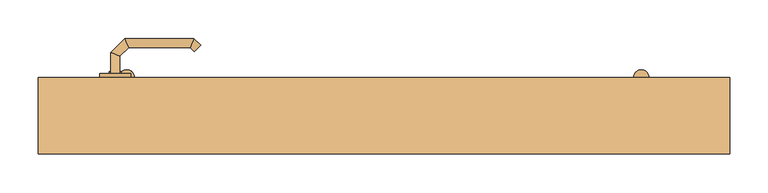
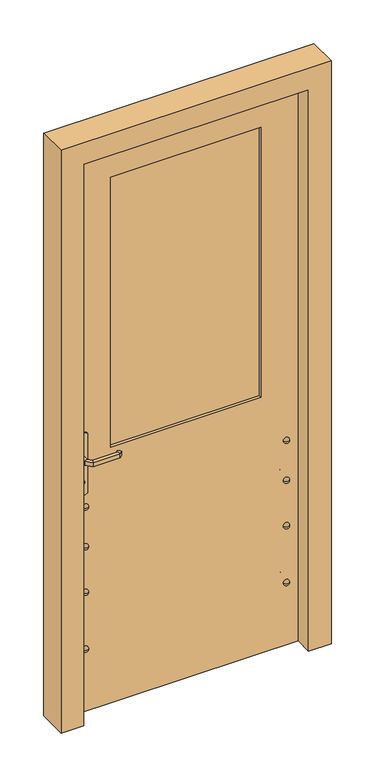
"""IFC4 building model written with IfcOpenShell, lengths in millimetres: door geometry, C&L Quercy mur simple : 80*200."""

from ifc_helpers import new_model, si_unit, point, frame, frame_2d, origin, place, context, project, spatial, polyline, circle_curve, ellipse_curve, trimmed, segment, composite_curve, outline, extrude, faceted_brep, source, transform, mapped, element, save
from ifc_brep_helpers import plane_surface, cylinder_surface, revolved_surface, advanced_brep


def door_49cb9b66(model_context):
    return source(origin(), model_context, "Body", "SolidModel", [
        extrude(outline(composite_curve([segment(polyline([(808.0464422, -355.0), (795.0, -355.0)]), True, "CONTINUOUS"), segment(trimmed(circle_curve(frame_2d((795.0, -350.0)), 5.0), [point((795.0, -355.0))], [point((795.0, -345.0))], False, "CARTESIAN"), True, "CONTINUOUS"), segment(polyline([(795.0, -345.0), (808.0464422, -345.0)]), True, "CONTINUOUS"), segment(trimmed(circle_curve(frame_2d((814.2914402, -350.0)), 8.0), [point((808.0464422, -345.0))], [point((808.0464422, -355.0))], False, "CARTESIAN"), True, "CONTINUOUS")], self_intersect=False)), frame((0.0, 85.0, 0.0), z_axis=(0.0, 1.0, 0.0), x_axis=(0.0, 0.0, 1.0)), (0.0, 0.0, 1.0), 5.0),
        extrude(outline(composite_curve([segment(polyline([(808.0464422, -355.0), (795.0, -355.0)]), True, "CONTINUOUS"), segment(trimmed(circle_curve(frame_2d((795.0, -350.0)), 5.0), [point((795.0, -355.0))], [point((795.0, -345.0))], False, "CARTESIAN"), True, "CONTINUOUS"), segment(polyline([(795.0, -345.0), (808.0464422, -345.0)]), True, "CONTINUOUS"), segment(trimmed(circle_curve(frame_2d((814.2914402, -350.0)), 8.0), [point((808.0464422, -345.0))], [point((808.0464422, -355.0))], False, "CARTESIAN"), True, "CONTINUOUS")], self_intersect=False)), frame((0.0, 140.0, 0.0), z_axis=(0.0, 1.0, 0.0), x_axis=(0.0, 0.0, 1.0)), (0.0, 0.0, 1.0), 3.0),
        advanced_brep(
        [(-344.0, 90.0, 893.0), (-356.0, 90.0, 893.0), (-356.0, 90.0, 907.0), (-344.0, 90.0, 907.0), (-344.0, 67.5147955, 907.0), (-344.0, 67.5147955, 893.0), (-356.0, 62.5442327, 907.0), (-356.0, 62.5442327, 893.0), (-332.5147186, 56.0295141, 907.0), (-332.5147186, 56.0295141, 893.0), (-337.4852814, 44.0295141, 907.0), (-337.4852814, 44.0295141, 893.0), (-252.4394977, 56.0295141, 907.0), (-252.4394977, 56.0295141, 893.0), (-247.468935, 44.0295141, 907.0), (-247.468935, 44.0295141, 893.0), (-247.1257892, 61.3432226, 893.0), (-247.1257892, 61.3432226, 907.0), (-238.6405078, 52.8579412, 907.0), (-238.6405078, 52.8579412, 893.0)],
        [
            (0, 1, circle_curve(frame((-350.0, 90.0, 913.0457722), z_axis=(0.0, 1.0, 0.0), x_axis=(-1.0, 0.0, 0.0)), 20.9244589)),
            (1, 2),
            (2, 3, circle_curve(frame((-350.0, 90.0, 886.9542278), z_axis=(0.0, 1.0, 0.0), x_axis=(-1.0, 0.0, 0.0)), 20.9244589)),
            (3, 0),
            (3, 4),
            (4, 5),
            (5, 0),
            (2, 6),
            (6, 4, ellipse_curve(frame((-350.0, 65.0295141, 886.9542278), z_axis=(-0.3826834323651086, 0.923879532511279, 0.0), x_axis=(0.9238795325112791, 0.3826834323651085, 0.0)), 22.6484711, 20.9244589)),
            (1, 7),
            (7, 6),
            (5, 7, ellipse_curve(frame((-350.0, 65.0295141, 913.0457722), z_axis=(-0.3826834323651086, 0.923879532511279, 0.0), x_axis=(0.9238795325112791, 0.3826834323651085, 0.0)), 22.6484711, 20.9244589)),
            (4, 8),
            (8, 9),
            (9, 5),
            (6, 10),
            (10, 8, ellipse_curve(frame((-335.0, 50.0295141, 886.9542278), z_axis=(-0.9238795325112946, 0.3826834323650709, 0.0), x_axis=(0.3826834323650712, 0.9238795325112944, 0.0)), 22.6484711, 20.9244589)),
            (7, 11),
            (11, 10),
            (9, 11, ellipse_curve(frame((-335.0, 50.0295141, 913.0457722), z_axis=(-0.9238795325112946, 0.3826834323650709, 0.0), x_axis=(0.3826834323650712, 0.9238795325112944, 0.0)), 22.6484711, 20.9244589)),
            (8, 12),
            (12, 13),
            (13, 9),
            (10, 14),
            (14, 12, ellipse_curve(frame((-249.9542163, 50.0295141, 886.9542278), z_axis=(-0.9238795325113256, -0.3826834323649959, 0.0), x_axis=(-0.38268343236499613, 0.9238795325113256, 0.0)), 22.6484711, 20.9244589)),
            (11, 15),
            (15, 14),
            (13, 15, ellipse_curve(frame((-249.9542163, 50.0295141, 913.0457722), z_axis=(-0.9238795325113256, -0.3826834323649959, 0.0), x_axis=(-0.38268343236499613, 0.9238795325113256, 0.0)), 22.6484711, 20.9244589)),
            (16, 17),
            (17, 18, circle_curve(frame((-242.8831485, 57.1005819, 886.9542278), z_axis=(0.7071067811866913, 0.7071067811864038, 0.0), x_axis=(0.7071067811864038, -0.7071067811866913, 0.0)), 20.9244589)),
            (18, 19),
            (19, 16, circle_curve(frame((-242.8831485, 57.1005819, 913.0457722), z_axis=(0.7071067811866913, 0.7071067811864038, 0.0), x_axis=(0.7071067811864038, -0.7071067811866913, 0.0)), 20.9244589)),
            (12, 17),
            (16, 13),
            (14, 18),
            (15, 19),
        ],
        [
            plane_surface(frame((-359.2195445, 90.0, 900.0), z_axis=(0.0, 1.0, 0.0), x_axis=(0.0, 0.0, 1.0))),
            plane_surface(frame((-344.0, 90.0, 893.0), z_axis=(1.0, 0.0, 0.0), x_axis=(0.0, -1.0, 0.0))),
            cylinder_surface(frame((-350.0, 90.0, 886.9542278), z_axis=(0.0, 1.0, 0.0), x_axis=(-1.0, 0.0, 0.0)), 20.9244589),
            plane_surface(frame((-356.0, 90.0, 907.0), z_axis=(-1.0, 0.0, 0.0), x_axis=(0.0, -1.0, 0.0))),
            cylinder_surface(frame((-350.0, 90.0, 913.0457722), z_axis=(0.0, 1.0, 0.0), x_axis=(-1.0, 0.0, 0.0)), 20.9244589),
            plane_surface(frame((-344.0, 67.5147955, 893.0), z_axis=(0.7071067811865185, 0.7071067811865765, 0.0), x_axis=(0.7071067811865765, -0.7071067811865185, 0.0))),
            cylinder_surface(frame((-350.0, 65.0295141, 886.9542278), z_axis=(-0.7071067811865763, 0.7071067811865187, 0.0), x_axis=(-0.7071067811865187, -0.7071067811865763, 0.0)), 20.9244589),
            plane_surface(frame((-356.0, 62.5442327, 907.0), z_axis=(-0.7071067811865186, -0.7071067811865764, 0.0), x_axis=(0.7071067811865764, -0.7071067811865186, 0.0))),
            cylinder_surface(frame((-350.0, 65.0295141, 913.0457722), z_axis=(-0.7071067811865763, 0.7071067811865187, 0.0), x_axis=(-0.7071067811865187, -0.7071067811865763, 0.0)), 20.9244589),
            plane_surface(frame((-332.5147186, 56.0295141, 893.0), z_axis=(0.0, 1.0, 0.0), x_axis=(1.0, 0.0, 0.0))),
            cylinder_surface(frame((-335.0, 50.0295141, 886.9542278), z_axis=(-1.0, 0.0, 0.0), x_axis=(0.0, -1.0, 0.0)), 20.9244589),
            plane_surface(frame((-337.4852814, 44.0295141, 907.0), z_axis=(0.0, -1.0, 0.0), x_axis=(1.0, 0.0, 0.0))),
            cylinder_surface(frame((-335.0, 50.0295141, 913.0457722), z_axis=(-1.0, 0.0, 0.0), x_axis=(0.0, -1.0, 0.0)), 20.9244589),
            plane_surface(frame((-242.8831485, 57.1005819, 890.7804555), z_axis=(0.7071067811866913, 0.7071067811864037, 0.0), x_axis=(0.7071067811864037, -0.7071067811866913, 0.0))),
            plane_surface(frame((-252.4394977, 56.0295141, 893.0), z_axis=(-0.7071067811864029, 0.7071067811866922, 0.0), x_axis=(0.7071067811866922, 0.7071067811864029, 0.0))),
            cylinder_surface(frame((-249.9542163, 50.0295141, 886.9542278), z_axis=(-0.7071067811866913, -0.7071067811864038, 0.0), x_axis=(0.7071067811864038, -0.7071067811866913, 0.0)), 20.9244589),
            plane_surface(frame((-247.468935, 44.0295141, 907.0), z_axis=(0.7071067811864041, -0.7071067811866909, 0.0), x_axis=(0.7071067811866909, 0.7071067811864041, 0.0))),
            cylinder_surface(frame((-249.9542163, 50.0295141, 913.0457722), z_axis=(-0.7071067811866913, -0.7071067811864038, 0.0), x_axis=(0.7071067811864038, -0.7071067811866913, 0.0)), 20.9244589),
        ],
        [
            (0, [[1, 2, 3, 4]]),
            (1, [[5, 6, 7, -4]]),
            (2, [[8, 9, -5, -3]]),
            (3, [[10, 11, -8, -2]]),
            (4, [[-7, 12, -10, -1]]),
            (5, [[13, 14, 15, -6]]),
            (6, [[16, 17, -13, -9]]),
            (7, [[18, 19, -16, -11]]),
            (8, [[-15, 20, -18, -12]]),
            (9, [[21, 22, 23, -14]]),
            (10, [[24, 25, -21, -17]]),
            (11, [[26, 27, -24, -19]]),
            (12, [[-23, 28, -26, -20]]),
            (13, [[29, 30, 31, 32]]),
            (14, [[33, -29, 34, -22]]),
            (15, [[35, -30, -33, -25]]),
            (16, [[36, -31, -35, -27]]),
            (17, [[-34, -32, -36, -28]]),
        ],
    ),
        advanced_brep(
        [(-356.0, 140.0, 907.0), (-356.0, 140.0, 893.0), (-344.0, 140.0, 893.0), (-344.0, 140.0, 907.0), (-344.0, 162.680388, 907.0), (-356.0, 167.6509507, 907.0), (-344.0, 162.680388, 893.0), (-356.0, 167.6509507, 893.0), (-332.6522273, 174.0281607, 907.0), (-337.62279, 186.0281607, 907.0), (-332.6522273, 174.0281607, 893.0), (-337.62279, 186.0281607, 893.0), (-252.4666408, 174.0281607, 907.0), (-247.496078, 186.0281607, 907.0), (-252.4666408, 174.0281607, 893.0), (-247.496078, 186.0281607, 893.0), (-238.6676509, 177.1997336, 907.0), (-247.1529323, 168.7144522, 907.0), (-247.1529323, 168.7144522, 893.0), (-238.6676509, 177.1997336, 893.0)],
        [
            (0, 1),
            (1, 2, circle_curve(frame((-350.0, 140.0, 913.0457722), z_axis=(0.0, -1.0, 0.0), x_axis=(1.0, 0.0, 0.0)), 20.9244589)),
            (2, 3),
            (3, 0, circle_curve(frame((-350.0, 140.0, 886.9542278), z_axis=(0.0, -1.0, 0.0), x_axis=(1.0, 0.0, 0.0)), 20.9244589)),
            (3, 4),
            (4, 5, ellipse_curve(frame((-350.0, 165.1656693, 886.9542278), z_axis=(-0.3826834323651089, -0.9238795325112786, 0.0), x_axis=(0.9238795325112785, -0.3826834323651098, 0.0)), 22.6484711, 20.9244589)),
            (5, 0),
            (2, 6),
            (6, 4),
            (1, 7),
            (7, 6, ellipse_curve(frame((-350.0, 165.1656693, 913.0457722), z_axis=(-0.3826834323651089, -0.9238795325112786, 0.0), x_axis=(0.9238795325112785, -0.3826834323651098, 0.0)), 22.6484711, 20.9244589)),
            (5, 7),
            (4, 8),
            (8, 9, ellipse_curve(frame((-335.1375086, 180.0281607, 886.9542278), z_axis=(-0.9238795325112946, -0.3826834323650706, 0.0), x_axis=(0.3826834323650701, -0.9238795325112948, 0.0)), 22.6484711, 20.9244589)),
            (9, 5),
            (6, 10),
            (10, 8),
            (7, 11),
            (11, 10, ellipse_curve(frame((-335.1375086, 180.0281607, 913.0457722), z_axis=(-0.9238795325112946, -0.3826834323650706, 0.0), x_axis=(0.3826834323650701, -0.9238795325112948, 0.0)), 22.6484711, 20.9244589)),
            (9, 11),
            (8, 12),
            (12, 13, ellipse_curve(frame((-249.9813594, 180.0281607, 886.9542278), z_axis=(-0.9238795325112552, 0.3826834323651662, 0.0), x_axis=(-0.3826834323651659, -0.9238795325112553, 0.0)), 22.6484711, 20.9244589)),
            (13, 9),
            (10, 14),
            (14, 12),
            (11, 15),
            (15, 14, ellipse_curve(frame((-249.9813594, 180.0281607, 913.0457722), z_axis=(-0.9238795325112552, 0.3826834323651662, 0.0), x_axis=(-0.3826834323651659, -0.9238795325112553, 0.0)), 22.6484711, 20.9244589)),
            (13, 15),
            (16, 17, circle_curve(frame((-242.9102916, 172.9570929, 886.9542278), z_axis=(0.7071067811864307, -0.7071067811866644, 0.0), x_axis=(-0.7071067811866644, -0.7071067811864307, 0.0)), 20.9244589)),
            (17, 18),
            (18, 19, circle_curve(frame((-242.9102916, 172.9570929, 913.0457722), z_axis=(0.7071067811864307, -0.7071067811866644, 0.0), x_axis=(-0.7071067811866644, -0.7071067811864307, 0.0)), 20.9244589)),
            (19, 16),
            (12, 17),
            (16, 13),
            (14, 18),
            (15, 19),
        ],
        [
            plane_surface(frame((-359.2195445, 140.0, 900.0), z_axis=(0.0, -1.0, 0.0), x_axis=(0.0, 0.0, -1.0))),
            cylinder_surface(frame((-350.0, 140.0, 886.9542278), z_axis=(0.0, -1.0, 0.0), x_axis=(1.0, 0.0, 0.0)), 20.9244589),
            plane_surface(frame((-344.0, 140.0, 907.0), z_axis=(1.0, 0.0, 0.0), x_axis=(0.0, 1.0, 0.0))),
            cylinder_surface(frame((-350.0, 140.0, 913.0457722), z_axis=(0.0, -1.0, 0.0), x_axis=(1.0, 0.0, 0.0)), 20.9244589),
            plane_surface(frame((-356.0, 140.0, 893.0), z_axis=(-1.0, 0.0, 0.0), x_axis=(0.0, 1.0, 0.0))),
            cylinder_surface(frame((-350.0, 165.1656693, 886.9542278), z_axis=(-0.7071067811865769, -0.7071067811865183, 0.0), x_axis=(0.7071067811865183, -0.7071067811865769, 0.0)), 20.9244589),
            plane_surface(frame((-344.0, 162.680388, 907.0), z_axis=(0.707106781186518, -0.7071067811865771, 0.0), x_axis=(0.7071067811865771, 0.707106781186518, 0.0))),
            cylinder_surface(frame((-350.0, 165.1656693, 913.0457722), z_axis=(-0.7071067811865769, -0.7071067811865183, 0.0), x_axis=(0.7071067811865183, -0.7071067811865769, 0.0)), 20.9244589),
            plane_surface(frame((-356.0, 167.6509507, 893.0), z_axis=(-0.7071067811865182, 0.7071067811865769, 0.0), x_axis=(0.7071067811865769, 0.7071067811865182, 0.0))),
            cylinder_surface(frame((-335.1375086, 180.0281607, 886.9542278), z_axis=(-1.0, 0.0, 0.0), x_axis=(0.0, -1.0, 0.0)), 20.9244589),
            plane_surface(frame((-332.6522273, 174.0281607, 907.0), z_axis=(0.0, -1.0, 0.0), x_axis=(1.0, 0.0, 0.0))),
            cylinder_surface(frame((-335.1375086, 180.0281607, 913.0457722), z_axis=(-1.0, 0.0, 0.0), x_axis=(0.0, -1.0, 0.0)), 20.9244589),
            plane_surface(frame((-337.62279, 186.0281607, 893.0), z_axis=(0.0, 1.0, 0.0), x_axis=(1.0, 0.0, 0.0))),
            plane_surface(frame((-242.9102916, 172.9570929, 909.2195445), z_axis=(0.7071067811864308, -0.7071067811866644, 0.0), x_axis=(0.7071067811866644, 0.7071067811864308, 0.0))),
            cylinder_surface(frame((-249.9813594, 180.0281607, 886.9542278), z_axis=(-0.7071067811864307, 0.7071067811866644, 0.0), x_axis=(-0.7071067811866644, -0.7071067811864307, 0.0)), 20.9244589),
            plane_surface(frame((-252.4666408, 174.0281607, 907.0), z_axis=(-0.7071067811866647, -0.7071067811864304, 0.0), x_axis=(0.7071067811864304, -0.7071067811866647, 0.0))),
            cylinder_surface(frame((-249.9813594, 180.0281607, 913.0457722), z_axis=(-0.7071067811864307, 0.7071067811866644, 0.0), x_axis=(-0.7071067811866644, -0.7071067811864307, 0.0)), 20.9244589),
            plane_surface(frame((-247.496078, 186.0281607, 893.0), z_axis=(0.7071067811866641, 0.707106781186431, 0.0), x_axis=(0.707106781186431, -0.7071067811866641, 0.0))),
        ],
        [
            (0, [[1, 2, 3, 4]]),
            (1, [[5, 6, 7, -4]]),
            (2, [[8, 9, -5, -3]]),
            (3, [[10, 11, -8, -2]]),
            (4, [[-7, 12, -10, -1]]),
            (5, [[13, 14, 15, -6]]),
            (6, [[16, 17, -13, -9]]),
            (7, [[18, 19, -16, -11]]),
            (8, [[-15, 20, -18, -12]]),
            (9, [[21, 22, 23, -14]]),
            (10, [[24, 25, -21, -17]]),
            (11, [[26, 27, -24, -19]]),
            (12, [[-23, 28, -26, -20]]),
            (13, [[29, 30, 31, 32]]),
            (14, [[33, -29, 34, -22]]),
            (15, [[35, -30, -33, -25]]),
            (16, [[36, -31, -35, -27]]),
            (17, [[-34, -32, -36, -28]]),
        ],
    ),
        extrude(outline(composite_curve([segment(trimmed(circle_curve(frame_2d((945.3589838, -350.0)), 40.0), [point((980.0, -330.0))], [point((980.0, -370.0))], False, "CARTESIAN"), True, "CONTINUOUS"), segment(polyline([(980.0, -370.0), (770.0, -370.0)]), True, "CONTINUOUS"), segment(trimmed(circle_curve(frame_2d((804.6410162, -350.0)), 40.0), [point((770.0, -370.0))], [point((770.0, -330.0))], False, "CARTESIAN"), True, "CONTINUOUS"), segment(polyline([(770.0, -330.0), (980.0, -330.0)]), True, "CONTINUOUS")], self_intersect=False)), frame((0.0, 90.0, 0.0), z_axis=(0.0, 1.0, 0.0), x_axis=(0.0, 0.0, 1.0)), (0.0, 0.0, 1.0), 5.0),
        extrude(outline(composite_curve([segment(trimmed(circle_curve(frame_2d((804.6410162, -350.0)), 40.0), [point((770.0, -370.0))], [point((770.0, -330.0))], False, "CARTESIAN"), True, "CONTINUOUS"), segment(polyline([(770.0, -330.0), (980.0, -330.0)]), True, "CONTINUOUS"), segment(trimmed(circle_curve(frame_2d((945.3589838, -350.0)), 40.0), [point((980.0, -330.0))], [point((980.0, -370.0))], False, "CARTESIAN"), True, "CONTINUOUS"), segment(polyline([(980.0, -370.0), (770.0, -370.0)]), True, "CONTINUOUS")], self_intersect=False)), frame((0.0, 135.0, 0.0), z_axis=(0.0, 1.0, 0.0), x_axis=(0.0, 0.0, 1.0)), (0.0, 0.0, 1.0), 5.0),
        faceted_brep([(-450.0, 35.0, 0.0), (-450.0, 135.0, 0.0), (-400.0, 135.0, 0.0), (-400.0, 95.0, 0.0), (-375.0, 95.0, 0.0), (-375.0, 35.0, 0.0), (-375.0, 35.0, 1975.0), (375.0, 35.0, 1975.0), (375.0, 35.0, 0.0), (450.0, 35.0, 0.0), (450.0, 35.0, 2050.0), (-450.0, 35.0, 2050.0), (-375.0, 95.0, 1975.0), (-400.0, 95.0, 2000.0), (400.0, 95.0, 2000.0), (400.0, 95.0, 0.0), (375.0, 95.0, 0.0), (375.0, 95.0, 1975.0), (-400.0, 135.0, 2000.0), (-450.0, 135.0, 2050.0), (450.0, 135.0, 2050.0), (450.0, 135.0, 0.0), (400.0, 135.0, 0.0), (400.0, 135.0, 2000.0)], [[[0, 1, 2, 3, 4, 5]], [[5, 6, 7, 8, 9, 10, 11, 0]], [[4, 12, 6, 5]], [[3, 13, 14, 15, 16, 17, 12, 4]], [[2, 18, 13, 3]], [[1, 19, 20, 21, 22, 23, 18, 2]], [[0, 11, 19, 1]], [[6, 12, 17, 7]], [[13, 18, 23, 14]], [[10, 20, 19, 11]], [[8, 16, 15, 22, 21, 9]], [[7, 17, 16, 8]], [[14, 23, 22, 15]], [[9, 21, 20, 10]]]),
        advanced_brep(
        [(-335.0, 85.0, 720.0), (-345.0, 95.0, 720.0), (-325.0, 95.0, 720.0), (-335.0, 95.0, 720.0)],
        [
            (0, 1, circle_curve(frame((-335.0, 95.0, 720.0), z_axis=(0.0, 0.0, -1.0), x_axis=(0.0, 1.0, 0.0)), 10.0)),
            (1, 2, circle_curve(frame((-335.0, 95.0, 720.0), z_axis=(0.0, -1.0, 0.0), x_axis=(1.0, 0.0, 0.0)), 10.0)),
            (2, 0, circle_curve(frame((-335.0, 95.0, 720.0), z_axis=(0.0, 0.0, -1.0), x_axis=(0.0, 1.0, 0.0)), 10.0)),
            (2, 1, circle_curve(frame((-335.0, 95.0, 720.0), z_axis=(0.0, -1.0, 0.0), x_axis=(1.0, 0.0, 0.0)), 10.0)),
            (1, 3),
            (3, 2),
        ],
        [
            revolved_surface(trimmed(ellipse_curve(frame((-335.0, 95.0, 720.0), z_axis=(0.0, 0.0, -1.0), x_axis=(0.0, 1.0, 0.0)), 10.0, 10.0), [point((-325.0, 95.0, 720.0))], [point((-335.0, 85.0, 720.0))], True, "CARTESIAN"), (-335.0, -513.130768, 720.0), (0.0, -1.0, 0.0)),
            plane_surface(frame((-335.0, 95.0, 720.0), z_axis=(0.0, 1.0, 0.0), x_axis=(1.0, 0.0, 0.0))),
        ],
        [
            (0, [[1, 2, 3]]),
            (0, [[-3, 4, -1]]),
            (1, [[5, 6, -2]]),
            (1, [[-6, -5, -4]]),
        ],
    ),
        advanced_brep(
        [(335.0, 85.0, 720.0), (325.0, 95.0, 720.0), (345.0, 95.0, 720.0), (335.0, 95.0, 720.0)],
        [
            (0, 1, circle_curve(frame((335.0, 95.0, 720.0), z_axis=(0.0, 0.0, -1.0), x_axis=(0.0, 1.0, 0.0)), 10.0)),
            (1, 2, circle_curve(frame((335.0, 95.0, 720.0), z_axis=(0.0, -1.0, 0.0), x_axis=(1.0, 0.0, 0.0)), 10.0)),
            (2, 0, circle_curve(frame((335.0, 95.0, 720.0), z_axis=(0.0, 0.0, -1.0), x_axis=(0.0, 1.0, 0.0)), 10.0)),
            (2, 1, circle_curve(frame((335.0, 95.0, 720.0), z_axis=(0.0, -1.0, 0.0), x_axis=(1.0, 0.0, 0.0)), 10.0)),
            (1, 3),
            (3, 2),
        ],
        [
            revolved_surface(trimmed(ellipse_curve(frame((335.0, 95.0, 720.0), z_axis=(0.0, 0.0, -1.0), x_axis=(0.0, 1.0, 0.0)), 10.0, 10.0), [point((345.0, 95.0, 720.0))], [point((335.0, 85.0, 720.0))], True, "CARTESIAN"), (335.0, -513.130768, 720.0), (0.0, -1.0, 0.0)),
            plane_surface(frame((335.0, 95.0, 720.0), z_axis=(0.0, 1.0, 0.0), x_axis=(1.0, 0.0, 0.0))),
        ],
        [
            (0, [[1, 2, 3]]),
            (0, [[-3, 4, -1]]),
            (1, [[5, 6, -2]]),
            (1, [[-6, -5, -4]]),
        ],
    ),
        advanced_brep(
        [(335.0, 85.0, 580.0), (325.0, 95.0, 580.0), (345.0, 95.0, 580.0), (335.0, 95.0, 580.0)],
        [
            (0, 1, circle_curve(frame((335.0, 95.0, 580.0), z_axis=(0.0, 0.0, -1.0), x_axis=(0.0, 1.0, 0.0)), 10.0)),
            (1, 2, circle_curve(frame((335.0, 95.0, 580.0), z_axis=(0.0, -1.0, 0.0), x_axis=(1.0, 0.0, 0.0)), 10.0)),
            (2, 0, circle_curve(frame((335.0, 95.0, 580.0), z_axis=(0.0, 0.0, -1.0), x_axis=(0.0, 1.0, 0.0)), 10.0)),
            (2, 1, circle_curve(frame((335.0, 95.0, 580.0), z_axis=(0.0, -1.0, 0.0), x_axis=(1.0, 0.0, 0.0)), 10.0)),
            (1, 3),
            (3, 2),
        ],
        [
            revolved_surface(trimmed(ellipse_curve(frame((335.0, 95.0, 580.0), z_axis=(0.0, 0.0, -1.0), x_axis=(0.0, 1.0, 0.0)), 10.0, 10.0), [point((345.0, 95.0, 580.0))], [point((335.0, 85.0, 580.0))], True, "CARTESIAN"), (335.0, -513.130768, 580.0), (0.0, -1.0, 0.0)),
            plane_surface(frame((335.0, 95.0, 580.0), z_axis=(0.0, 1.0, 0.0), x_axis=(1.0, 0.0, 0.0))),
        ],
        [
            (0, [[1, 2, 3]]),
            (0, [[-3, 4, -1]]),
            (1, [[5, 6, -2]]),
            (1, [[-6, -5, -4]]),
        ],
    ),
        advanced_brep(
        [(-335.0, 85.0, 580.0), (-345.0, 95.0, 580.0), (-325.0, 95.0, 580.0), (-335.0, 95.0, 580.0)],
        [
            (0, 1, circle_curve(frame((-335.0, 95.0, 580.0), z_axis=(0.0, 0.0, -1.0), x_axis=(0.0, 1.0, 0.0)), 10.0)),
            (1, 2, circle_curve(frame((-335.0, 95.0, 580.0), z_axis=(0.0, -1.0, 0.0), x_axis=(1.0, 0.0, 0.0)), 10.0)),
            (2, 0, circle_curve(frame((-335.0, 95.0, 580.0), z_axis=(0.0, 0.0, -1.0), x_axis=(0.0, 1.0, 0.0)), 10.0)),
            (2, 1, circle_curve(frame((-335.0, 95.0, 580.0), z_axis=(0.0, -1.0, 0.0), x_axis=(1.0, 0.0, 0.0)), 10.0)),
            (1, 3),
            (3, 2),
        ],
        [
            revolved_surface(trimmed(ellipse_curve(frame((-335.0, 95.0, 580.0), z_axis=(0.0, 0.0, -1.0), x_axis=(0.0, 1.0, 0.0)), 10.0, 10.0), [point((-325.0, 95.0, 580.0))], [point((-335.0, 85.0, 580.0))], True, "CARTESIAN"), (-335.0, -513.130768, 580.0), (0.0, -1.0, 0.0)),
            plane_surface(frame((-335.0, 95.0, 580.0), z_axis=(0.0, 1.0, 0.0), x_axis=(1.0, 0.0, 0.0))),
        ],
        [
            (0, [[1, 2, 3]]),
            (0, [[-3, 4, -1]]),
            (1, [[5, 6, -2]]),
            (1, [[-6, -5, -4]]),
        ],
    ),
        advanced_brep(
        [(-335.0, 85.0, 420.0), (-345.0, 95.0, 420.0), (-325.0, 95.0, 420.0), (-335.0, 95.0, 420.0)],
        [
            (0, 1, circle_curve(frame((-335.0, 95.0, 420.0), z_axis=(0.0, 0.0, -1.0), x_axis=(0.0, 1.0, 0.0)), 10.0)),
            (1, 2, circle_curve(frame((-335.0, 95.0, 420.0), z_axis=(0.0, -1.0, 0.0), x_axis=(1.0, 0.0, 0.0)), 10.0)),
            (2, 0, circle_curve(frame((-335.0, 95.0, 420.0), z_axis=(0.0, 0.0, -1.0), x_axis=(0.0, 1.0, 0.0)), 10.0)),
            (2, 1, circle_curve(frame((-335.0, 95.0, 420.0), z_axis=(0.0, -1.0, 0.0), x_axis=(1.0, 0.0, 0.0)), 10.0)),
            (1, 3),
            (3, 2),
        ],
        [
            revolved_surface(trimmed(ellipse_curve(frame((-335.0, 95.0, 420.0), z_axis=(0.0, 0.0, -1.0), x_axis=(0.0, 1.0, 0.0)), 10.0, 10.0), [point((-325.0, 95.0, 420.0))], [point((-335.0, 85.0, 420.0))], True, "CARTESIAN"), (-335.0, -513.130768, 420.0), (0.0, -1.0, 0.0)),
            plane_surface(frame((-335.0, 95.0, 420.0), z_axis=(0.0, 1.0, 0.0), x_axis=(1.0, 0.0, 0.0))),
        ],
        [
            (0, [[1, 2, 3]]),
            (0, [[-3, 4, -1]]),
            (1, [[5, 6, -2]]),
            (1, [[-6, -5, -4]]),
        ],
    ),
        advanced_brep(
        [(325.0, 95.0, 420.0), (335.0, 95.0, 420.0), (345.0, 95.0, 420.0), (335.0, 85.0, 420.0)],
        [
            (0, 1),
            (1, 2),
            (2, 0, circle_curve(frame((335.0, 95.0, 420.0), z_axis=(0.0, 1.0, 0.0), x_axis=(1.0, 0.0, 0.0)), 10.0)),
            (0, 2, circle_curve(frame((335.0, 95.0, 420.0), z_axis=(0.0, 1.0, 0.0), x_axis=(1.0, 0.0, 0.0)), 10.0)),
            (3, 0, circle_curve(frame((335.0, 95.0, 420.0), z_axis=(0.0, 0.0, -1.0), x_axis=(0.0, 1.0, 0.0)), 10.0)),
            (2, 3, circle_curve(frame((335.0, 95.0, 420.0), z_axis=(0.0, 0.0, -1.0), x_axis=(0.0, 1.0, 0.0)), 10.0)),
        ],
        [
            plane_surface(frame((335.0, 95.0, 420.0), z_axis=(0.0, 1.0, 0.0), x_axis=(1.0, 0.0, 0.0))),
            revolved_surface(trimmed(ellipse_curve(frame((335.0, 95.0, 420.0), z_axis=(0.0, 0.0, -1.0), x_axis=(0.0, 1.0, 0.0)), 10.0, 10.0), [point((345.0, 95.0, 420.0))], [point((335.0, 85.0, 420.0))], True, "CARTESIAN"), (335.0, -513.130768, 420.0), (0.0, -1.0, 0.0)),
        ],
        [
            (0, [[1, 2, 3]]),
            (0, [[-2, -1, 4]]),
            (1, [[5, -3, 6]]),
            (1, [[-6, -4, -5]]),
        ],
    ),
        advanced_brep(
        [(325.0, 95.0, 220.0), (335.0, 95.0, 220.0), (345.0, 95.0, 220.0), (335.0, 85.0, 220.0)],
        [
            (0, 1),
            (1, 2),
            (2, 0, circle_curve(frame((335.0, 95.0, 220.0), z_axis=(0.0, 1.0, 0.0), x_axis=(1.0, 0.0, 0.0)), 10.0)),
            (0, 2, circle_curve(frame((335.0, 95.0, 220.0), z_axis=(0.0, 1.0, 0.0), x_axis=(1.0, 0.0, 0.0)), 10.0)),
            (3, 0, circle_curve(frame((335.0, 95.0, 220.0), z_axis=(0.0, 0.0, -1.0), x_axis=(0.0, 1.0, 0.0)), 10.0)),
            (2, 3, circle_curve(frame((335.0, 95.0, 220.0), z_axis=(0.0, 0.0, -1.0), x_axis=(0.0, 1.0, 0.0)), 10.0)),
        ],
        [
            plane_surface(frame((335.0, 95.0, 220.0), z_axis=(0.0, 1.0, 0.0), x_axis=(1.0, 0.0, 0.0))),
            revolved_surface(trimmed(ellipse_curve(frame((335.0, 95.0, 220.0), z_axis=(0.0, 0.0, -1.0), x_axis=(0.0, 1.0, 0.0)), 10.0, 10.0), [point((345.0, 95.0, 220.0))], [point((335.0, 85.0, 220.0))], True, "CARTESIAN"), (335.0, -513.130768, 220.0), (0.0, -1.0, 0.0)),
        ],
        [
            (0, [[1, 2, 3]]),
            (0, [[-2, -1, 4]]),
            (1, [[5, -3, 6]]),
            (1, [[-6, -4, -5]]),
        ],
    ),
        advanced_brep(
        [(-345.0, 95.0, 220.0), (-335.0, 95.0, 220.0), (-325.0, 95.0, 220.0), (-335.0, 85.0, 220.0)],
        [
            (0, 1),
            (1, 2),
            (2, 0, circle_curve(frame((-335.0, 95.0, 220.0), z_axis=(0.0, 1.0, 0.0), x_axis=(1.0, 0.0, 0.0)), 10.0)),
            (0, 2, circle_curve(frame((-335.0, 95.0, 220.0), z_axis=(0.0, 1.0, 0.0), x_axis=(1.0, 0.0, 0.0)), 10.0)),
            (3, 0, circle_curve(frame((-335.0, 95.0, 220.0), z_axis=(0.0, 0.0, -1.0), x_axis=(0.0, 1.0, 0.0)), 10.0)),
            (2, 3, circle_curve(frame((-335.0, 95.0, 220.0), z_axis=(0.0, 0.0, -1.0), x_axis=(0.0, 1.0, 0.0)), 10.0)),
        ],
        [
            plane_surface(frame((-335.0, 95.0, 220.0), z_axis=(0.0, 1.0, 0.0), x_axis=(1.0, 0.0, 0.0))),
            revolved_surface(trimmed(ellipse_curve(frame((-335.0, 95.0, 220.0), z_axis=(0.0, 0.0, -1.0), x_axis=(0.0, 1.0, 0.0)), 10.0, 10.0), [point((-325.0, 95.0, 220.0))], [point((-335.0, 85.0, 220.0))], True, "CARTESIAN"), (-335.0, -513.130768, 220.0), (0.0, -1.0, 0.0)),
        ],
        [
            (0, [[1, 2, 3]]),
            (0, [[-2, -1, 4]]),
            (1, [[5, -3, 6]]),
            (1, [[-6, -4, -5]]),
        ],
    ),
        advanced_brep(
        [(-325.0, 135.0, 720.0), (-335.0, 135.0, 720.0), (-345.0, 135.0, 720.0), (-335.0, 145.0, 720.0)],
        [
            (0, 1),
            (1, 2),
            (2, 0, circle_curve(frame((-335.0, 135.0, 720.0), z_axis=(0.0, -1.0, 0.0), x_axis=(-1.0, 0.0, 0.0)), 10.0)),
            (0, 2, circle_curve(frame((-335.0, 135.0, 720.0), z_axis=(0.0, -1.0, 0.0), x_axis=(-1.0, 0.0, 0.0)), 10.0)),
            (3, 0, circle_curve(frame((-335.0, 135.0, 720.0), z_axis=(0.0, 0.0, -1.0), x_axis=(0.0, 1.0, 0.0)), 10.0)),
            (2, 3, circle_curve(frame((-335.0, 135.0, 720.0), z_axis=(0.0, 0.0, -1.0), x_axis=(0.0, 1.0, 0.0)), 10.0)),
        ],
        [
            plane_surface(frame((-335.0, 135.0, 720.0), z_axis=(0.0, -1.0, 0.0), x_axis=(-1.0, 0.0, 0.0))),
            revolved_surface(trimmed(ellipse_curve(frame((-335.0, 135.0, 720.0), z_axis=(0.0, 0.0, -1.0), x_axis=(0.0, 1.0, 0.0)), 10.0, 10.0), [point((-345.0, 135.0, 720.0))], [point((-335.0, 145.0, 720.0))], True, "CARTESIAN"), (-335.0, -513.130768, 720.0), (0.0, 1.0, 0.0)),
        ],
        [
            (0, [[1, 2, 3]]),
            (0, [[-2, -1, 4]]),
            (1, [[5, -3, 6]]),
            (1, [[-6, -4, -5]]),
        ],
    ),
        advanced_brep(
        [(345.0, 135.0, 720.0), (335.0, 135.0, 720.0), (325.0, 135.0, 720.0), (335.0, 145.0, 720.0)],
        [
            (0, 1),
            (1, 2),
            (2, 0, circle_curve(frame((335.0, 135.0, 720.0), z_axis=(0.0, -1.0, 0.0), x_axis=(-1.0, 0.0, 0.0)), 10.0)),
            (0, 2, circle_curve(frame((335.0, 135.0, 720.0), z_axis=(0.0, -1.0, 0.0), x_axis=(-1.0, 0.0, 0.0)), 10.0)),
            (3, 0, circle_curve(frame((335.0, 135.0, 720.0), z_axis=(0.0, 0.0, -1.0), x_axis=(0.0, 1.0, 0.0)), 10.0)),
            (2, 3, circle_curve(frame((335.0, 135.0, 720.0), z_axis=(0.0, 0.0, -1.0), x_axis=(0.0, 1.0, 0.0)), 10.0)),
        ],
        [
            plane_surface(frame((335.0, 135.0, 720.0), z_axis=(0.0, -1.0, 0.0), x_axis=(-1.0, 0.0, 0.0))),
            revolved_surface(trimmed(ellipse_curve(frame((335.0, 135.0, 720.0), z_axis=(0.0, 0.0, -1.0), x_axis=(0.0, 1.0, 0.0)), 10.0, 10.0), [point((325.0, 135.0, 720.0))], [point((335.0, 145.0, 720.0))], True, "CARTESIAN"), (335.0, -513.130768, 720.0), (0.0, 1.0, 0.0)),
        ],
        [
            (0, [[1, 2, 3]]),
            (0, [[-2, -1, 4]]),
            (1, [[5, -3, 6]]),
            (1, [[-6, -4, -5]]),
        ],
    ),
        advanced_brep(
        [(345.0, 135.0, 580.0), (335.0, 135.0, 580.0), (325.0, 135.0, 580.0), (335.0, 145.0, 580.0)],
        [
            (0, 1),
            (1, 2),
            (2, 0, circle_curve(frame((335.0, 135.0, 580.0), z_axis=(0.0, -1.0, 0.0), x_axis=(-1.0, 0.0, 0.0)), 10.0)),
            (0, 2, circle_curve(frame((335.0, 135.0, 580.0), z_axis=(0.0, -1.0, 0.0), x_axis=(-1.0, 0.0, 0.0)), 10.0)),
            (3, 0, circle_curve(frame((335.0, 135.0, 580.0), z_axis=(0.0, 0.0, -1.0), x_axis=(0.0, 1.0, 0.0)), 10.0)),
            (2, 3, circle_curve(frame((335.0, 135.0, 580.0), z_axis=(0.0, 0.0, -1.0), x_axis=(0.0, 1.0, 0.0)), 10.0)),
        ],
        [
            plane_surface(frame((335.0, 135.0, 580.0), z_axis=(0.0, -1.0, 0.0), x_axis=(-1.0, 0.0, 0.0))),
            revolved_surface(trimmed(ellipse_curve(frame((335.0, 135.0, 580.0), z_axis=(0.0, 0.0, -1.0), x_axis=(0.0, 1.0, 0.0)), 10.0, 10.0), [point((325.0, 135.0, 580.0))], [point((335.0, 145.0, 580.0))], True, "CARTESIAN"), (335.0, -513.130768, 580.0), (0.0, 1.0, 0.0)),
        ],
        [
            (0, [[1, 2, 3]]),
            (0, [[-2, -1, 4]]),
            (1, [[5, -3, 6]]),
            (1, [[-6, -4, -5]]),
        ],
    ),
        advanced_brep(
        [(335.0, 145.0, 580.0), (345.0, 135.0, 580.0), (325.0, 135.0, 580.0), (335.0, 135.0, 580.0)],
        [
            (0, 1, circle_curve(frame((335.0, 135.0, 580.0), z_axis=(0.0, 0.0, -1.0), x_axis=(0.0, 1.0, 0.0)), 10.0)),
            (1, 2, circle_curve(frame((335.0, 135.0, 580.0), z_axis=(0.0, 1.0, 0.0), x_axis=(-1.0, 0.0, 0.0)), 10.0)),
            (2, 0, circle_curve(frame((335.0, 135.0, 580.0), z_axis=(0.0, 0.0, -1.0), x_axis=(0.0, 1.0, 0.0)), 10.0)),
            (2, 1, circle_curve(frame((335.0, 135.0, 580.0), z_axis=(0.0, 1.0, 0.0), x_axis=(-1.0, 0.0, 0.0)), 10.0)),
            (1, 3),
            (3, 2),
        ],
        [
            revolved_surface(trimmed(ellipse_curve(frame((335.0, 135.0, 580.0), z_axis=(0.0, 0.0, -1.0), x_axis=(0.0, 1.0, 0.0)), 10.0, 10.0), [point((325.0, 135.0, 580.0))], [point((335.0, 145.0, 580.0))], True, "CARTESIAN"), (335.0, -513.130768, 580.0), (0.0, 1.0, 0.0)),
            plane_surface(frame((335.0, 135.0, 580.0), z_axis=(0.0, -1.0, 0.0), x_axis=(-1.0, 0.0, 0.0))),
        ],
        [
            (0, [[1, 2, 3]]),
            (0, [[-3, 4, -1]]),
            (1, [[5, 6, -2]]),
            (1, [[-6, -5, -4]]),
        ],
    ),
        advanced_brep(
        [(-335.0, 145.0, 580.0), (-325.0, 135.0, 580.0), (-345.0, 135.0, 580.0), (-335.0, 135.0, 580.0)],
        [
            (0, 1, circle_curve(frame((-335.0, 135.0, 580.0), z_axis=(0.0, 0.0, -1.0), x_axis=(0.0, 1.0, 0.0)), 10.0)),
            (1, 2, circle_curve(frame((-335.0, 135.0, 580.0), z_axis=(0.0, 1.0, 0.0), x_axis=(-1.0, 0.0, 0.0)), 10.0)),
            (2, 0, circle_curve(frame((-335.0, 135.0, 580.0), z_axis=(0.0, 0.0, -1.0), x_axis=(0.0, 1.0, 0.0)), 10.0)),
            (2, 1, circle_curve(frame((-335.0, 135.0, 580.0), z_axis=(0.0, 1.0, 0.0), x_axis=(-1.0, 0.0, 0.0)), 10.0)),
            (1, 3),
            (3, 2),
        ],
        [
            revolved_surface(trimmed(ellipse_curve(frame((-335.0, 135.0, 580.0), z_axis=(0.0, 0.0, -1.0), x_axis=(0.0, 1.0, 0.0)), 10.0, 10.0), [point((-345.0, 135.0, 580.0))], [point((-335.0, 145.0, 580.0))], True, "CARTESIAN"), (-335.0, -513.130768, 580.0), (0.0, 1.0, 0.0)),
            plane_surface(frame((-335.0, 135.0, 580.0), z_axis=(0.0, -1.0, 0.0), x_axis=(-1.0, 0.0, 0.0))),
        ],
        [
            (0, [[1, 2, 3]]),
            (0, [[-3, 4, -1]]),
            (1, [[5, 6, -2]]),
            (1, [[-6, -5, -4]]),
        ],
    ),
        advanced_brep(
        [(345.0, 135.0, 420.0), (335.0, 135.0, 420.0), (325.0, 135.0, 420.0), (335.0, 145.0, 420.0)],
        [
            (0, 1),
            (1, 2),
            (2, 0, circle_curve(frame((335.0, 135.0, 420.0), z_axis=(0.0, -1.0, 0.0), x_axis=(-1.0, 0.0, 0.0)), 10.0)),
            (0, 2, circle_curve(frame((335.0, 135.0, 420.0), z_axis=(0.0, -1.0, 0.0), x_axis=(-1.0, 0.0, 0.0)), 10.0)),
            (3, 0, circle_curve(frame((335.0, 135.0, 420.0), z_axis=(0.0, 0.0, -1.0), x_axis=(0.0, 1.0, 0.0)), 10.0)),
            (2, 3, circle_curve(frame((335.0, 135.0, 420.0), z_axis=(0.0, 0.0, -1.0), x_axis=(0.0, 1.0, 0.0)), 10.0)),
        ],
        [
            plane_surface(frame((335.0, 135.0, 420.0), z_axis=(0.0, -1.0, 0.0), x_axis=(-1.0, 0.0, 0.0))),
            revolved_surface(trimmed(ellipse_curve(frame((335.0, 135.0, 420.0), z_axis=(0.0, 0.0, -1.0), x_axis=(0.0, 1.0, 0.0)), 10.0, 10.0), [point((325.0, 135.0, 420.0))], [point((335.0, 145.0, 420.0))], True, "CARTESIAN"), (335.0, -513.130768, 420.0), (0.0, 1.0, 0.0)),
        ],
        [
            (0, [[1, 2, 3]]),
            (0, [[-2, -1, 4]]),
            (1, [[5, -3, 6]]),
            (1, [[-6, -4, -5]]),
        ],
    ),
        advanced_brep(
        [(-325.0, 135.0, 420.0), (-335.0, 135.0, 420.0), (-345.0, 135.0, 420.0), (-335.0, 145.0, 420.0)],
        [
            (0, 1),
            (1, 2),
            (2, 0, circle_curve(frame((-335.0, 135.0, 420.0), z_axis=(0.0, -1.0, 0.0), x_axis=(-1.0, 0.0, 0.0)), 10.0)),
            (0, 2, circle_curve(frame((-335.0, 135.0, 420.0), z_axis=(0.0, -1.0, 0.0), x_axis=(-1.0, 0.0, 0.0)), 10.0)),
            (3, 0, circle_curve(frame((-335.0, 135.0, 420.0), z_axis=(0.0, 0.0, -1.0), x_axis=(0.0, 1.0, 0.0)), 10.0)),
            (2, 3, circle_curve(frame((-335.0, 135.0, 420.0), z_axis=(0.0, 0.0, -1.0), x_axis=(0.0, 1.0, 0.0)), 10.0)),
        ],
        [
            plane_surface(frame((-335.0, 135.0, 420.0), z_axis=(0.0, -1.0, 0.0), x_axis=(-1.0, 0.0, 0.0))),
            revolved_surface(trimmed(ellipse_curve(frame((-335.0, 135.0, 420.0), z_axis=(0.0, 0.0, -1.0), x_axis=(0.0, 1.0, 0.0)), 10.0, 10.0), [point((-345.0, 135.0, 420.0))], [point((-335.0, 145.0, 420.0))], True, "CARTESIAN"), (-335.0, -513.130768, 420.0), (0.0, 1.0, 0.0)),
        ],
        [
            (0, [[1, 2, 3]]),
            (0, [[-2, -1, 4]]),
            (1, [[5, -3, 6]]),
            (1, [[-6, -4, -5]]),
        ],
    ),
        advanced_brep(
        [(345.0, 135.0, 220.0), (335.0, 135.0, 220.0), (325.0, 135.0, 220.0), (335.0, 145.0, 220.0)],
        [
            (0, 1),
            (1, 2),
            (2, 0, circle_curve(frame((335.0, 135.0, 220.0), z_axis=(0.0, -1.0, 0.0), x_axis=(-1.0, 0.0, 0.0)), 10.0)),
            (0, 2, circle_curve(frame((335.0, 135.0, 220.0), z_axis=(0.0, -1.0, 0.0), x_axis=(-1.0, 0.0, 0.0)), 10.0)),
            (3, 0, circle_curve(frame((335.0, 135.0, 220.0), z_axis=(0.0, 0.0, -1.0), x_axis=(0.0, 1.0, 0.0)), 10.0)),
            (2, 3, circle_curve(frame((335.0, 135.0, 220.0), z_axis=(0.0, 0.0, -1.0), x_axis=(0.0, 1.0, 0.0)), 10.0)),
        ],
        [
            plane_surface(frame((335.0, 135.0, 220.0), z_axis=(0.0, -1.0, 0.0), x_axis=(-1.0, 0.0, 0.0))),
            revolved_surface(trimmed(ellipse_curve(frame((335.0, 135.0, 220.0), z_axis=(0.0, 0.0, -1.0), x_axis=(0.0, 1.0, 0.0)), 10.0, 10.0), [point((325.0, 135.0, 220.0))], [point((335.0, 145.0, 220.0))], True, "CARTESIAN"), (335.0, -513.130768, 220.0), (0.0, 1.0, 0.0)),
        ],
        [
            (0, [[1, 2, 3]]),
            (0, [[-2, -1, 4]]),
            (1, [[5, -3, 6]]),
            (1, [[-6, -4, -5]]),
        ],
    ),
        advanced_brep(
        [(-325.0, 135.0, 220.0), (-335.0, 135.0, 220.0), (-345.0, 135.0, 220.0), (-335.0, 145.0, 220.0)],
        [
            (0, 1),
            (1, 2),
            (2, 0, circle_curve(frame((-335.0, 135.0, 220.0), z_axis=(0.0, -1.0, 0.0), x_axis=(-1.0, 0.0, 0.0)), 10.0)),
            (0, 2, circle_curve(frame((-335.0, 135.0, 220.0), z_axis=(0.0, -1.0, 0.0), x_axis=(-1.0, 0.0, 0.0)), 10.0)),
            (3, 0, circle_curve(frame((-335.0, 135.0, 220.0), z_axis=(0.0, 0.0, -1.0), x_axis=(0.0, 1.0, 0.0)), 10.0)),
            (2, 3, circle_curve(frame((-335.0, 135.0, 220.0), z_axis=(0.0, 0.0, -1.0), x_axis=(0.0, 1.0, 0.0)), 10.0)),
        ],
        [
            plane_surface(frame((-335.0, 135.0, 220.0), z_axis=(0.0, -1.0, 0.0), x_axis=(-1.0, 0.0, 0.0))),
            revolved_surface(trimmed(ellipse_curve(frame((-335.0, 135.0, 220.0), z_axis=(0.0, 0.0, -1.0), x_axis=(0.0, 1.0, 0.0)), 10.0, 10.0), [point((-345.0, 135.0, 220.0))], [point((-335.0, 145.0, 220.0))], True, "CARTESIAN"), (-335.0, -513.130768, 220.0), (0.0, 1.0, 0.0)),
        ],
        [
            (0, [[1, 2, 3]]),
            (0, [[-2, -1, 4]]),
            (1, [[5, -3, 6]]),
            (1, [[-6, -4, -5]]),
        ],
    ),
        extrude(outline(polyline([(250.0, 125.0), (250.0, 105.0), (-250.0, 105.0), (-250.0, 125.0), (250.0, 125.0)])), frame((0.0, 0.0, 900.0), z_axis=(0.0, 0.0, 1.0), x_axis=(1.0, 0.0, 0.0)), (0.0, 0.0, 1.0), 950.0),
        extrude(outline(polyline([(2000.0, -400.0), (0.0, -400.0), (0.0, 400.0), (2000.0, 400.0), (2000.0, -400.0)]), holes=[polyline([(1850.0, 250.0), (900.0, 250.0), (900.0, -250.0), (1850.0, -250.0), (1850.0, 250.0)])]), frame((0.0, 95.0, 0.0), z_axis=(0.0, 1.0, 0.0), x_axis=(0.0, 0.0, 1.0)), (0.0, 0.0, 1.0), 40.0),
    ])


if __name__ == "__main__":
    model = new_model("IFC4")
    model_context = context("Model", 3, world=origin())
    ifc_project = project(units=[si_unit("LENGTHUNIT", "METRE", prefix="MILLI")], contexts=[model_context])
    site = spatial("IfcSite", under=ifc_project)
    building = spatial("IfcBuilding", under=site)
    placement = place(None, origin())
    door_shape = door_49cb9b66(model_context)
    element("IfcDoor", 1, ObjectType="C&L Quercy mur simple : 80*200", at=placement, inside=building, context=model_context, shape_type="MappedRepresentation", body=[
        mapped(door_shape, transform((0.0, 0.0, 0.0), x_axis=(1.0, 0.0, 0.0), y_axis=(0.0, 1.0, 0.0), z_axis=(0.0, 0.0, 1.0))),
    ])
    save(model, "model.ifc")
